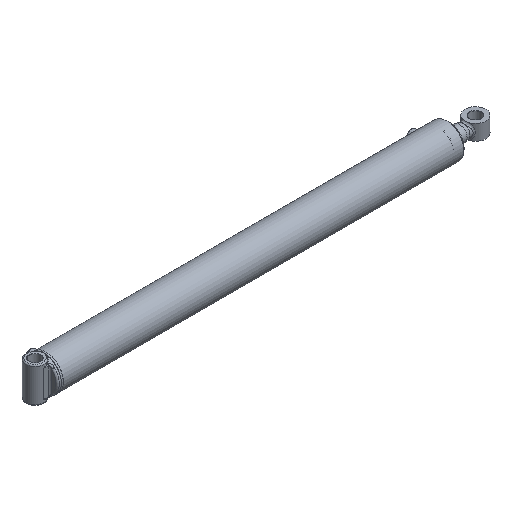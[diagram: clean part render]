
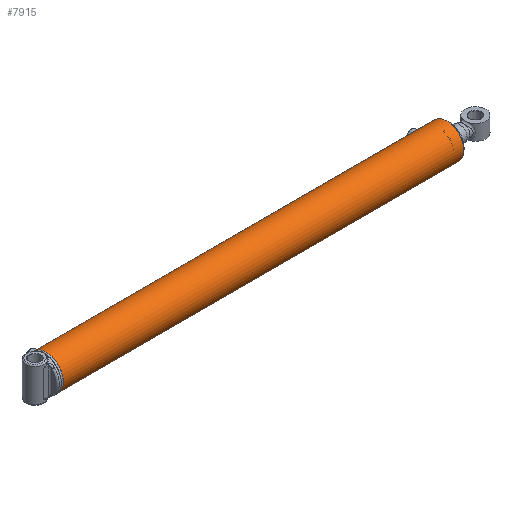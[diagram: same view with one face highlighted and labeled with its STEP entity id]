
A CAD part, isometric view. The second image highlights one B-rep face of the part: STEP entity #7915.
In plain terms, the highlighted cylindrical face has radius 49.212 mm (diameter 98.425 mm), a full revolution.
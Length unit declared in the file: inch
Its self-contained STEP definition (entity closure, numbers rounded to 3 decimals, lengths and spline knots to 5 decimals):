
#653=B_SPLINE_CURVE_WITH_KNOTS('',3,(#11899,#11900,#11901,#11902,#11903,
#11904,#11905,#11906,#11907,#11908),.UNSPECIFIED.,.F.,.F.,(4,2,2,2,4),(0.,
0.17952,0.35904,0.53855,0.71807),
 .UNSPECIFIED.);
#654=B_SPLINE_CURVE_WITH_KNOTS('',3,(#11909,#11910,#11911,#11912,#11913,
#11914,#11915,#11916,#11917,#11918,#11919,#11920,#11921,#11922,#11923,#11924,
#11925,#11926,#11927,#11928,#11929,#11930,#11931,#11932,#11933,#11934),
 .UNSPECIFIED.,.F.,.F.,(4,2,2,2,2,2,2,2,2,2,2,2,4),(0.71807,0.89759,
1.07711,1.25662,1.43614,1.61566,1.79518,
1.97469,2.15421,2.33373,2.51325,2.69276,
2.87228),.UNSPECIFIED.);
#655=B_SPLINE_CURVE_WITH_KNOTS('',3,(#11939,#11940,#11941,#11942,#11943,
#11944,#11945,#11946,#11947,#11948),.UNSPECIFIED.,.F.,.F.,(4,2,2,2,4),(0.,
0.17952,0.35904,0.53855,0.71807),
 .UNSPECIFIED.);
#656=B_SPLINE_CURVE_WITH_KNOTS('',3,(#11949,#11950,#11951,#11952,#11953,
#11954,#11955,#11956,#11957,#11958,#11959,#11960,#11961,#11962,#11963,#11964,
#11965,#11966,#11967,#11968,#11969,#11970,#11971,#11972,#11973,#11974),
 .UNSPECIFIED.,.F.,.F.,(4,2,2,2,2,2,2,2,2,2,2,2,4),(0.71807,0.89759,
1.07711,1.25662,1.43614,1.61566,1.79518,
1.97469,2.15421,2.33373,2.51325,2.69276,
2.87228),.UNSPECIFIED.);
#962=FACE_BOUND('',#2484,.T.);
#963=FACE_BOUND('',#2485,.T.);
#1244=LINE('',#12002,#1570);
#1570=VECTOR('',#9736,1.9375);
#1893=CYLINDRICAL_SURFACE('',#8765,1.9375);
#1987=FACE_OUTER_BOUND('',#2483,.T.);
#2483=EDGE_LOOP('',(#5553,#5554,#5555,#5556,#5557,#5558));
#2484=EDGE_LOOP('',(#5559,#5560));
#2485=EDGE_LOOP('',(#5561,#5562));
#3065=CIRCLE('',#8762,1.9375);
#3067=CIRCLE('',#8764,1.9375);
#3068=CIRCLE('',#8766,1.9375);
#3069=CIRCLE('',#8767,1.9375);
#3547=VERTEX_POINT('',#11896);
#3548=VERTEX_POINT('',#11898);
#3549=VERTEX_POINT('',#11936);
#3550=VERTEX_POINT('',#11938);
#3557=VERTEX_POINT('',#11995);
#3558=VERTEX_POINT('',#11996);
#3559=VERTEX_POINT('',#12001);
#3560=VERTEX_POINT('',#12003);
#4319=EDGE_CURVE('',#3548,#3547,#653,.T.);
#4320=EDGE_CURVE('',#3547,#3548,#654,.T.);
#4322=EDGE_CURVE('',#3550,#3549,#655,.T.);
#4323=EDGE_CURVE('',#3549,#3550,#656,.T.);
#4333=EDGE_CURVE('',#3557,#3558,#3065,.T.);
#4335=EDGE_CURVE('',#3558,#3557,#3067,.T.);
#4336=EDGE_CURVE('',#3557,#3559,#1244,.T.);
#4337=EDGE_CURVE('',#3560,#3559,#3068,.T.);
#4338=EDGE_CURVE('',#3559,#3560,#3069,.T.);
#5553=ORIENTED_EDGE('',*,*,#4333,.F.);
#5554=ORIENTED_EDGE('',*,*,#4336,.T.);
#5555=ORIENTED_EDGE('',*,*,#4337,.F.);
#5556=ORIENTED_EDGE('',*,*,#4338,.F.);
#5557=ORIENTED_EDGE('',*,*,#4336,.F.);
#5558=ORIENTED_EDGE('',*,*,#4335,.F.);
#5559=ORIENTED_EDGE('',*,*,#4319,.T.);
#5560=ORIENTED_EDGE('',*,*,#4320,.T.);
#5561=ORIENTED_EDGE('',*,*,#4322,.T.);
#5562=ORIENTED_EDGE('',*,*,#4323,.T.);
#7915=ADVANCED_FACE('',(#1987,#962,#963),#1893,.T.);
#8762=AXIS2_PLACEMENT_3D('',#11997,#9728,#9729);
#8764=AXIS2_PLACEMENT_3D('',#11999,#9732,#9733);
#8765=AXIS2_PLACEMENT_3D('',#12000,#9734,#9735);
#8766=AXIS2_PLACEMENT_3D('',#12004,#9737,#9738);
#8767=AXIS2_PLACEMENT_3D('',#12005,#9739,#9740);
#9728=DIRECTION('center_axis',(1.,0.,0.));
#9729=DIRECTION('ref_axis',(0.,-1.,0.));
#9732=DIRECTION('center_axis',(1.,0.,0.));
#9733=DIRECTION('ref_axis',(0.,-1.,0.));
#9734=DIRECTION('center_axis',(1.,0.,0.));
#9735=DIRECTION('ref_axis',(0.,-1.,0.));
#9736=DIRECTION('',(-1.,0.,0.));
#9737=DIRECTION('center_axis',(-1.,0.,0.));
#9738=DIRECTION('ref_axis',(0.,-1.,0.));
#9739=DIRECTION('center_axis',(-1.,0.,0.));
#9740=DIRECTION('ref_axis',(0.,-1.,0.));
#11896=CARTESIAN_POINT('',(0.7225,0.,1.9375));
#11898=CARTESIAN_POINT('',(0.91,-0.1875,1.92841));
#11899=CARTESIAN_POINT('Ctrl Pts',(0.91,-0.1875,1.92841));
#11900=CARTESIAN_POINT('Ctrl Pts',(0.88644,-0.1875,1.92841));
#11901=CARTESIAN_POINT('Ctrl Pts',(0.86132,-0.18279,
1.92888));
#11902=CARTESIAN_POINT('Ctrl Pts',(0.81513,-0.16365,
1.9306));
#11903=CARTESIAN_POINT('Ctrl Pts',(0.79406,-0.14922,
1.93182));
#11904=CARTESIAN_POINT('Ctrl Pts',(0.76078,-0.11594,
1.9341));
#11905=CARTESIAN_POINT('Ctrl Pts',(0.74635,-0.09487,
1.93531));
#11906=CARTESIAN_POINT('Ctrl Pts',(0.72721,-0.04868,
1.93703));
#11907=CARTESIAN_POINT('Ctrl Pts',(0.7225,-0.02356,1.9375));
#11908=CARTESIAN_POINT('Ctrl Pts',(0.7225,0.,1.9375));
#11909=CARTESIAN_POINT('Ctrl Pts',(0.7225,0.,1.9375));
#11910=CARTESIAN_POINT('Ctrl Pts',(0.7225,0.02356,1.9375));
#11911=CARTESIAN_POINT('Ctrl Pts',(0.72721,0.04868,
1.93703));
#11912=CARTESIAN_POINT('Ctrl Pts',(0.74635,0.09487,
1.93531));
#11913=CARTESIAN_POINT('Ctrl Pts',(0.76078,0.11594,
1.9341));
#11914=CARTESIAN_POINT('Ctrl Pts',(0.79406,0.14922,
1.93182));
#11915=CARTESIAN_POINT('Ctrl Pts',(0.81513,0.16365,
1.9306));
#11916=CARTESIAN_POINT('Ctrl Pts',(0.86132,0.18279,
1.92888));
#11917=CARTESIAN_POINT('Ctrl Pts',(0.88644,0.1875,1.92841));
#11918=CARTESIAN_POINT('Ctrl Pts',(0.93356,0.1875,1.92841));
#11919=CARTESIAN_POINT('Ctrl Pts',(0.95868,0.18279,
1.92888));
#11920=CARTESIAN_POINT('Ctrl Pts',(1.00487,0.16365,1.9306));
#11921=CARTESIAN_POINT('Ctrl Pts',(1.02594,0.14922,1.93182));
#11922=CARTESIAN_POINT('Ctrl Pts',(1.05922,0.11594,1.9341));
#11923=CARTESIAN_POINT('Ctrl Pts',(1.07365,0.09487,
1.93531));
#11924=CARTESIAN_POINT('Ctrl Pts',(1.09279,0.04868,
1.93703));
#11925=CARTESIAN_POINT('Ctrl Pts',(1.0975,0.02356,1.9375));
#11926=CARTESIAN_POINT('Ctrl Pts',(1.0975,-0.02356,1.9375));
#11927=CARTESIAN_POINT('Ctrl Pts',(1.09279,-0.04868,
1.93703));
#11928=CARTESIAN_POINT('Ctrl Pts',(1.07365,-0.09487,
1.93531));
#11929=CARTESIAN_POINT('Ctrl Pts',(1.05922,-0.11594,
1.9341));
#11930=CARTESIAN_POINT('Ctrl Pts',(1.02594,-0.14922,
1.93182));
#11931=CARTESIAN_POINT('Ctrl Pts',(1.00487,-0.16365,
1.9306));
#11932=CARTESIAN_POINT('Ctrl Pts',(0.95868,-0.18279,
1.92888));
#11933=CARTESIAN_POINT('Ctrl Pts',(0.93356,-0.1875,1.92841));
#11934=CARTESIAN_POINT('Ctrl Pts',(0.91,-0.1875,1.92841));
#11936=CARTESIAN_POINT('',(43.9425,0.,1.9375));
#11938=CARTESIAN_POINT('',(44.13,-0.1875,1.92841));
#11939=CARTESIAN_POINT('Ctrl Pts',(44.13,-0.1875,1.92841));
#11940=CARTESIAN_POINT('Ctrl Pts',(44.10644,-0.1875,
1.92841));
#11941=CARTESIAN_POINT('Ctrl Pts',(44.08132,-0.18279,
1.92888));
#11942=CARTESIAN_POINT('Ctrl Pts',(44.03513,-0.16365,
1.9306));
#11943=CARTESIAN_POINT('Ctrl Pts',(44.01406,-0.14922,1.93182));
#11944=CARTESIAN_POINT('Ctrl Pts',(43.98078,-0.11594,
1.9341));
#11945=CARTESIAN_POINT('Ctrl Pts',(43.96635,-0.09487,
1.93531));
#11946=CARTESIAN_POINT('Ctrl Pts',(43.94721,-0.04868,
1.93703));
#11947=CARTESIAN_POINT('Ctrl Pts',(43.9425,-0.02356,1.9375));
#11948=CARTESIAN_POINT('Ctrl Pts',(43.9425,0.,1.9375));
#11949=CARTESIAN_POINT('Ctrl Pts',(43.9425,0.,1.9375));
#11950=CARTESIAN_POINT('Ctrl Pts',(43.9425,0.02356,1.9375));
#11951=CARTESIAN_POINT('Ctrl Pts',(43.94721,0.04868,1.93703));
#11952=CARTESIAN_POINT('Ctrl Pts',(43.96635,0.09487,
1.93531));
#11953=CARTESIAN_POINT('Ctrl Pts',(43.98078,0.11594,1.9341));
#11954=CARTESIAN_POINT('Ctrl Pts',(44.01406,0.14922,1.93182));
#11955=CARTESIAN_POINT('Ctrl Pts',(44.03513,0.16365,1.9306));
#11956=CARTESIAN_POINT('Ctrl Pts',(44.08132,0.18279,1.92888));
#11957=CARTESIAN_POINT('Ctrl Pts',(44.10644,0.1875,1.92841));
#11958=CARTESIAN_POINT('Ctrl Pts',(44.15356,0.1875,1.92841));
#11959=CARTESIAN_POINT('Ctrl Pts',(44.17868,0.18279,1.92888));
#11960=CARTESIAN_POINT('Ctrl Pts',(44.22487,0.16365,1.9306));
#11961=CARTESIAN_POINT('Ctrl Pts',(44.24594,0.14922,1.93182));
#11962=CARTESIAN_POINT('Ctrl Pts',(44.27922,0.11594,1.9341));
#11963=CARTESIAN_POINT('Ctrl Pts',(44.29365,0.09487,
1.93531));
#11964=CARTESIAN_POINT('Ctrl Pts',(44.31279,0.04868,1.93703));
#11965=CARTESIAN_POINT('Ctrl Pts',(44.3175,0.02356,1.9375));
#11966=CARTESIAN_POINT('Ctrl Pts',(44.3175,-0.02356,1.9375));
#11967=CARTESIAN_POINT('Ctrl Pts',(44.31279,-0.04868,
1.93703));
#11968=CARTESIAN_POINT('Ctrl Pts',(44.29365,-0.09487,
1.93531));
#11969=CARTESIAN_POINT('Ctrl Pts',(44.27922,-0.11594,
1.9341));
#11970=CARTESIAN_POINT('Ctrl Pts',(44.24594,-0.14922,1.93182));
#11971=CARTESIAN_POINT('Ctrl Pts',(44.22487,-0.16365,
1.9306));
#11972=CARTESIAN_POINT('Ctrl Pts',(44.17868,-0.18279,
1.92888));
#11973=CARTESIAN_POINT('Ctrl Pts',(44.15356,-0.1875,
1.92841));
#11974=CARTESIAN_POINT('Ctrl Pts',(44.13,-0.1875,1.92841));
#11995=CARTESIAN_POINT('',(45.56,1.9375,0.));
#11996=CARTESIAN_POINT('',(45.56,0.,-1.9375));
#11997=CARTESIAN_POINT('Origin',(45.56,0.,0.));
#11999=CARTESIAN_POINT('Origin',(45.56,0.,0.));
#12000=CARTESIAN_POINT('Origin',(0.,0.,0.));
#12001=CARTESIAN_POINT('',(0.09382,1.9375,0.));
#12002=CARTESIAN_POINT('',(0.,1.9375,0.));
#12003=CARTESIAN_POINT('',(0.09382,0.,1.9375));
#12004=CARTESIAN_POINT('Origin',(0.09382,0.,0.));
#12005=CARTESIAN_POINT('Origin',(0.09382,0.,0.));
